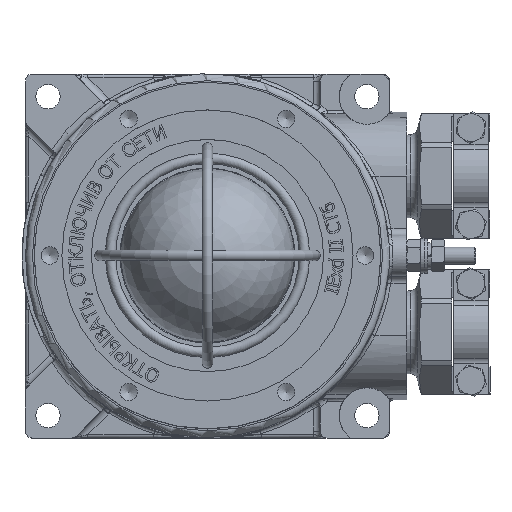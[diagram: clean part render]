
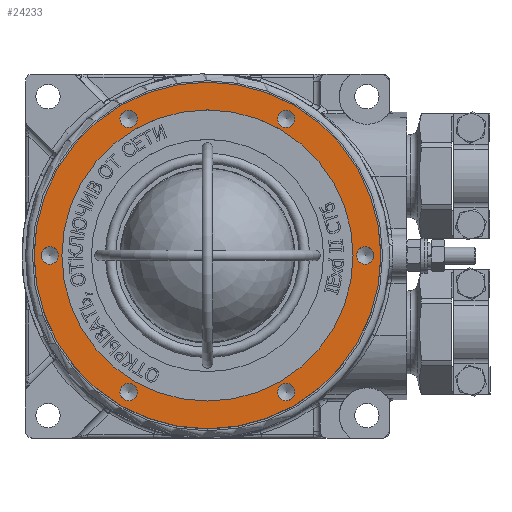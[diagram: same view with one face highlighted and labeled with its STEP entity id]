
A CAD part, top view. The second image highlights one B-rep face of the part: STEP entity #24233.
In plain terms, the highlighted planar face has unit normal (0, 0, 1).
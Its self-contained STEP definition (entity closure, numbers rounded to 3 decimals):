
#662=PLANE('',#25770);
#1062=FACE_BOUND('',#3936,.T.);
#1063=FACE_BOUND('',#3937,.T.);
#1064=FACE_BOUND('',#3938,.T.);
#1065=FACE_BOUND('',#3939,.T.);
#1066=FACE_BOUND('',#3940,.T.);
#1067=FACE_BOUND('',#3941,.T.);
#1068=FACE_BOUND('',#3942,.T.);
#2424=FACE_OUTER_BOUND('',#3935,.T.);
#3935=EDGE_LOOP('',(#19194));
#3936=EDGE_LOOP('',(#19195));
#3937=EDGE_LOOP('',(#19196));
#3938=EDGE_LOOP('',(#19197));
#3939=EDGE_LOOP('',(#19198));
#3940=EDGE_LOOP('',(#19199));
#3941=EDGE_LOOP('',(#19200));
#3942=EDGE_LOOP('',(#19201));
#4984=CIRCLE('',#25735,2.5);
#4986=CIRCLE('',#25740,2.5);
#4988=CIRCLE('',#25745,2.5);
#4990=CIRCLE('',#25750,2.5);
#4992=CIRCLE('',#25755,2.5);
#4994=CIRCLE('',#25760,2.5);
#4999=CIRCLE('',#25769,50.);
#5000=CIRCLE('',#25771,42.);
#10894=VERTEX_POINT('',#43883);
#10898=VERTEX_POINT('',#43960);
#10902=VERTEX_POINT('',#44037);
#10906=VERTEX_POINT('',#44114);
#10910=VERTEX_POINT('',#44191);
#10914=VERTEX_POINT('',#44268);
#10919=VERTEX_POINT('',#44282);
#10920=VERTEX_POINT('',#44285);
#13817=EDGE_CURVE('',#10894,#10894,#4984,.T.);
#13821=EDGE_CURVE('',#10898,#10898,#4986,.T.);
#13825=EDGE_CURVE('',#10902,#10902,#4988,.T.);
#13829=EDGE_CURVE('',#10906,#10906,#4990,.T.);
#13833=EDGE_CURVE('',#10910,#10910,#4992,.T.);
#13837=EDGE_CURVE('',#10914,#10914,#4994,.T.);
#13842=EDGE_CURVE('',#10919,#10919,#4999,.T.);
#13843=EDGE_CURVE('',#10920,#10920,#5000,.T.);
#19194=ORIENTED_EDGE('',*,*,#13842,.T.);
#19195=ORIENTED_EDGE('',*,*,#13817,.T.);
#19196=ORIENTED_EDGE('',*,*,#13821,.T.);
#19197=ORIENTED_EDGE('',*,*,#13825,.T.);
#19198=ORIENTED_EDGE('',*,*,#13829,.T.);
#19199=ORIENTED_EDGE('',*,*,#13833,.T.);
#19200=ORIENTED_EDGE('',*,*,#13837,.T.);
#19201=ORIENTED_EDGE('',*,*,#13843,.F.);
#24233=ADVANCED_FACE('',(#2424,#1062,#1063,#1064,#1065,#1066,#1067,#1068),
#662,.T.);
#25735=AXIS2_PLACEMENT_3D('',#43884,#29624,#29625);
#25740=AXIS2_PLACEMENT_3D('',#43961,#29634,#29635);
#25745=AXIS2_PLACEMENT_3D('',#44038,#29644,#29645);
#25750=AXIS2_PLACEMENT_3D('',#44115,#29654,#29655);
#25755=AXIS2_PLACEMENT_3D('',#44192,#29664,#29665);
#25760=AXIS2_PLACEMENT_3D('',#44269,#29674,#29675);
#25769=AXIS2_PLACEMENT_3D('',#44283,#29692,#29693);
#25770=AXIS2_PLACEMENT_3D('',#44284,#29694,#29695);
#25771=AXIS2_PLACEMENT_3D('',#44286,#29696,#29697);
#29624=DIRECTION('center_axis',(0.,0.,
-1.));
#29625=DIRECTION('ref_axis',(0.866,0.5,0.));
#29634=DIRECTION('center_axis',(0.,0.,
-1.));
#29635=DIRECTION('ref_axis',(0.866,-0.5,0.));
#29644=DIRECTION('center_axis',(0.,0.,
-1.));
#29645=DIRECTION('ref_axis',(0.,-1.,0.));
#29654=DIRECTION('center_axis',(0.,0.,
-1.));
#29655=DIRECTION('ref_axis',(-0.866,-0.5,0.));
#29664=DIRECTION('center_axis',(0.,0.,
-1.));
#29665=DIRECTION('ref_axis',(-0.866,0.5,0.));
#29674=DIRECTION('center_axis',(0.,0.,
-1.));
#29675=DIRECTION('ref_axis',(0.,1.,0.));
#29692=DIRECTION('center_axis',(0.,0.,
1.));
#29693=DIRECTION('ref_axis',(0.,1.,0.));
#29694=DIRECTION('center_axis',(0.,0.,
1.));
#29695=DIRECTION('ref_axis',(0.,1.,0.));
#29696=DIRECTION('center_axis',(0.,0.,
1.));
#29697=DIRECTION('ref_axis',(0.,1.,0.));
#43883=CARTESIAN_POINT('',(-20.585,40.654,105.));
#43884=CARTESIAN_POINT('Origin',(-22.75,39.404,105.));
#43960=CARTESIAN_POINT('',(24.915,38.154,105.));
#43961=CARTESIAN_POINT('Origin',(22.75,39.404,105.));
#44037=CARTESIAN_POINT('',(45.5,-2.5,105.));
#44038=CARTESIAN_POINT('Origin',(45.5,0.,105.));
#44114=CARTESIAN_POINT('',(20.585,-40.654,105.));
#44115=CARTESIAN_POINT('Origin',(22.75,-39.404,105.));
#44191=CARTESIAN_POINT('',(-24.915,-38.154,105.));
#44192=CARTESIAN_POINT('Origin',(-22.75,-39.404,105.));
#44268=CARTESIAN_POINT('',(-45.5,2.5,105.));
#44269=CARTESIAN_POINT('Origin',(-45.5,0.,105.));
#44282=CARTESIAN_POINT('',(-50.,0.,105.));
#44283=CARTESIAN_POINT('Origin',(0.,0.,
105.));
#44284=CARTESIAN_POINT('Origin',(-42.,0.,105.));
#44285=CARTESIAN_POINT('',(-42.,0.,105.));
#44286=CARTESIAN_POINT('Origin',(0.,0.,
105.));
